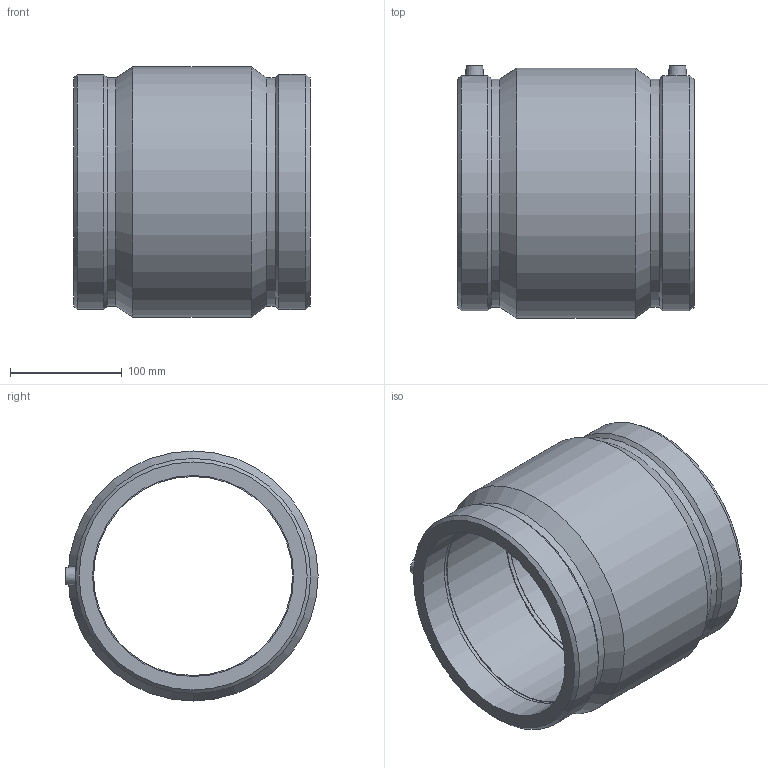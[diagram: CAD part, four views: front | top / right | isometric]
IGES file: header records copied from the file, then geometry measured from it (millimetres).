
Global section: file name: 450104180.ipt; native system: Autodesk Inventor 2015; preprocessor: unknown; author: KIM; date: 20171106.093354; units: millimetre
Bounding box: 212 x 226 x 224 mm (x, y, z)
Volume: 2465661.5 mm3; surface area: 290307.2 mm2
Topology: 1 solids, 1 shells, 36 faces, 80 edges, 54 vertices
Faces by surface type: plane 12, revolution 9, cone 8, cylinder 7
Full cylindrical faces by diameter (mm): 4 x2, 204.243 x2, 210.56 x2, 224 x1
